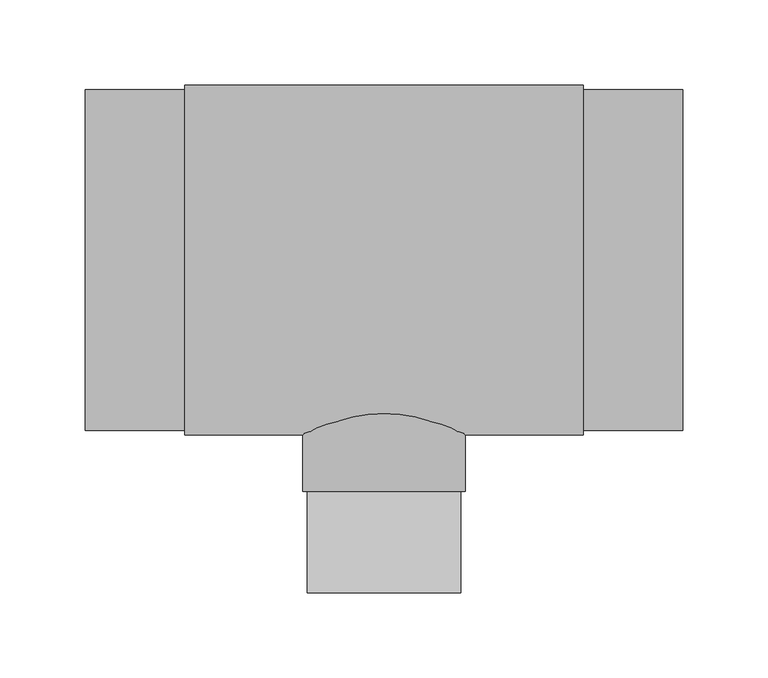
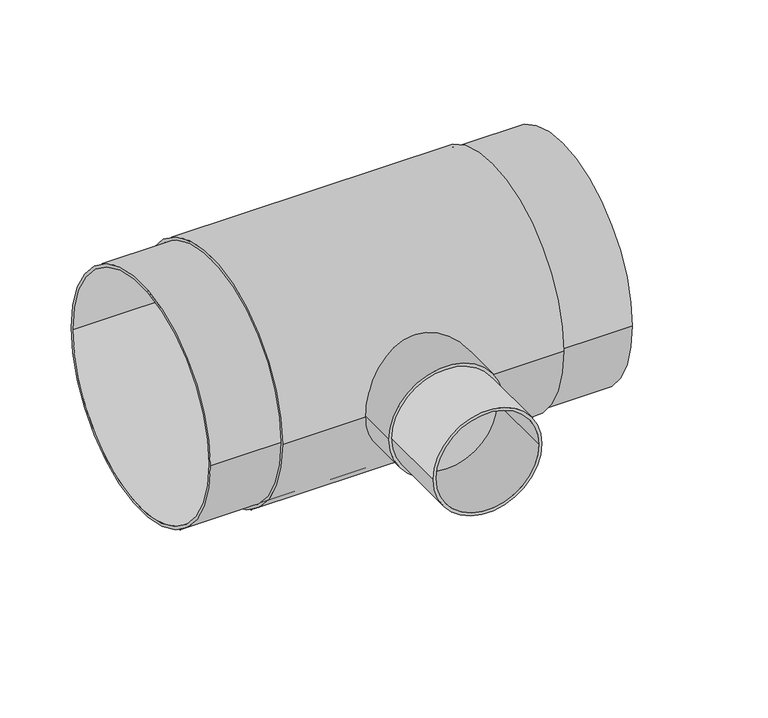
"""IFC4 building model written with IfcOpenShell, lengths in millimetres: pipe fitting geometry, EGB_VASEN_ PPR_Te a tope WXRB300_Te reducida a tope WXRB310 : Te a tope."""

import ifcopenshell
import ifcopenshell.guid

model = None  # the IFC model being written
_history = None  # IfcOwnerHistory: only IFC2X3 demands one
_inside = {}  # id of a spatial element -> (the spatial element, [elements in it])
_under = {}  # id of a project, library or spatial element -> (it, [spatial elements below it])
_declared = {}  # id of a project -> (the project, [libraries it declares])
_typed = {}  # id of a type object -> (the type object, [elements of that type])
_made_of = {}  # id of a material, layer set ... -> (it, [elements and type objects made of it])


def new_model(schema):
    """Start an empty IFC model of exactly this schema.

    Asked for "IFC4X3", IfcOpenShell would pick the latest addendum, in which some entities
    have other attributes; the version numbers below select the first issue.
    IFC2X3 requires an IfcOwnerHistory on every rooted entity: one is made here for all.
    """
    global model, _history
    if schema == "IFC4X3":
        model = ifcopenshell.file(schema_version=(4, 3, 0, 0))
    else:
        model = ifcopenshell.file(schema=schema)
    _inside.clear()
    _under.clear()
    _declared.clear()
    _typed.clear()
    _made_of.clear()
    _history = None
    if model.schema == "IFC2X3":
        org = make("IfcOrganization", Name="unknown")
        user = make(
            "IfcPersonAndOrganization",
            ThePerson=make("IfcPerson", FamilyName="unknown"),
            TheOrganization=org,
        )
        app = make(
            "IfcApplication",
            ApplicationDeveloper=org,
            Version="unknown",
            ApplicationFullName="unknown",
            ApplicationIdentifier="unknown",
        )
        _history = make(
            "IfcOwnerHistory",
            OwningUser=user,
            OwningApplication=app,
            ChangeAction="ADDED",
            CreationDate=0,
        )
    return model


def make(cls, **values):
    """One entity of the class cls with the attributes given. An attribute that is None is left unset."""
    return model.create_entity(
        cls, **{name: value for name, value in values.items() if value is not None}
    )


def rooted(cls, **values):
    """An entity with a GlobalId (a new one), such as an element, a storey or a relation."""
    return make(cls, GlobalId=ifcopenshell.guid.new(), OwnerHistory=_history, **values)


def si_unit(unit_type, name, prefix=None):
    """IfcSIUnit, for example si_unit("LENGTHUNIT", "METRE", prefix="MILLI")."""
    return make("IfcSIUnit", UnitType=unit_type, Prefix=prefix, Name=name)


def assignment(units):
    """IfcUnitAssignment: the units of a project."""
    return None if units is None else make("IfcUnitAssignment", Units=units)


def point(xyz):
    """IfcCartesianPoint."""
    return None if xyz is None else make("IfcCartesianPoint", Coordinates=xyz)


def direction(xyz):
    """IfcDirection."""
    return None if xyz is None else make("IfcDirection", DirectionRatios=xyz)


def frame(location, z_axis=None, x_axis=None):
    """IfcAxis2Placement3D, a coordinate frame: its origin and axes. An axis left out is left unset."""
    return make(
        "IfcAxis2Placement3D",
        Location=point(location),
        Axis=direction(z_axis),
        RefDirection=direction(x_axis),
    )


def frame_2d(location, x_axis=None):
    """IfcAxis2Placement2D, a coordinate frame in the plane: its origin and x axis."""
    return make(
        "IfcAxis2Placement2D", Location=point(location), RefDirection=direction(x_axis)
    )


def origin():
    """The frame at (0, 0, 0) with its axes left unset."""
    return frame((0.0, 0.0, 0.0))


def origin_2d():
    """The frame at (0, 0) in the plane with its x axis left unset."""
    return frame_2d((0.0, 0.0))


def place(relative_to, where):
    """IfcLocalPlacement: puts the frame where relative to a parent placement (None: the world)."""
    return make(
        "IfcLocalPlacement", PlacementRelTo=relative_to, RelativePlacement=where
    )


def context(
    kind, dimensions, precision=None, world=None, true_north=None, identifier=None
):
    """IfcGeometricRepresentationContext, for example the 3D "Model" context."""
    return make(
        "IfcGeometricRepresentationContext",
        ContextIdentifier=identifier,
        ContextType=kind,
        CoordinateSpaceDimension=dimensions,
        Precision=precision,
        WorldCoordinateSystem=world,
        TrueNorth=true_north,
    )


def project(units=None, contexts=None):
    """IfcProject with its units and contexts."""
    return rooted(
        "IfcProject",
        Name="project",
        RepresentationContexts=contexts,
        UnitsInContext=assignment(units),
    )


def spatial(cls, under=None, at=None, **own):
    """A site, building, storey or space (cls), placed at a placement, below another one or the project."""
    s = rooted(cls, ObjectPlacement=at, **own)
    if under is not None:
        _under.setdefault(under.id(), (under, []))[1].append(s)
    return s


def circle_curve(where, radius):
    """IfcCircle in the frame where."""
    return make("IfcCircle", Position=where, Radius=radius)


def trimmed(basis, trim1, trim2, sense, master):
    """IfcTrimmedCurve: the piece of a basis curve between two trims."""
    return make(
        "IfcTrimmedCurve",
        BasisCurve=basis,
        Trim1=trim1,
        Trim2=trim2,
        SenseAgreement=sense,
        MasterRepresentation=master,
    )


def segment(curve, same_sense, transition):
    """IfcCompositeCurveSegment."""
    return make(
        "IfcCompositeCurveSegment",
        Transition=transition,
        SameSense=same_sense,
        ParentCurve=curve,
    )


def composite_curve(segments, self_intersect=None):
    """IfcCompositeCurve: segments joined end to end."""
    return make("IfcCompositeCurve", Segments=segments, SelfIntersect=self_intersect)


def outline(outer, holes=None, kind="AREA"):
    """IfcArbitraryClosedProfileDef: a profile drawn as a closed curve; with holes, ...WithVoids."""
    if holes is None:
        return make("IfcArbitraryClosedProfileDef", ProfileType=kind, OuterCurve=outer)
    return make(
        "IfcArbitraryProfileDefWithVoids",
        ProfileType=kind,
        OuterCurve=outer,
        InnerCurves=holes,
    )


def extrude(swept, where, along, depth):
    """IfcExtrudedAreaSolid: the profile swept, set in the frame where, extruded along a direction by depth."""
    return make(
        "IfcExtrudedAreaSolid",
        SweptArea=swept,
        Position=where,
        ExtrudedDirection=direction(along),
        Depth=depth,
    )


def shape(context_of_items, identifier, shape_type, items):
    """IfcShapeRepresentation: the items that make up one representation, for example the "Body"."""
    return make(
        "IfcShapeRepresentation",
        ContextOfItems=context_of_items,
        RepresentationIdentifier=identifier,
        RepresentationType=shape_type,
        Items=items,
    )


def source(mapping_origin, context_of_items, identifier, shape_type, items):
    """IfcRepresentationMap: a shape defined once, which mapped items show again and again."""
    return make(
        "IfcRepresentationMap",
        MappingOrigin=mapping_origin,
        MappedRepresentation=shape(context_of_items, identifier, shape_type, items),
    )


def transform(
    local_origin,
    x_axis=None,
    y_axis=None,
    z_axis=None,
    scale=None,
    scale2=None,
    scale3=None,
    uniform=True,
):
    """IfcCartesianTransformationOperator3D, or its non-uniform kind. x_axis, y_axis, z_axis: its Axis1, 2, 3."""
    if uniform:
        return make(
            "IfcCartesianTransformationOperator3D",
            Axis1=direction(x_axis),
            Axis2=direction(y_axis),
            LocalOrigin=point(local_origin),
            Scale=scale,
            Axis3=direction(z_axis),
        )
    return make(
        "IfcCartesianTransformationOperator3DnonUniform",
        Axis1=direction(x_axis),
        Axis2=direction(y_axis),
        LocalOrigin=point(local_origin),
        Scale=scale,
        Axis3=direction(z_axis),
        Scale2=scale2,
        Scale3=scale3,
    )


def mapped(mapping_source, mapping_target):
    """IfcMappedItem: shows the shape of a source again, moved by a transform."""
    return make(
        "IfcMappedItem", MappingSource=mapping_source, MappingTarget=mapping_target
    )


def made_of(thing, what):
    """Note that an element or type object is made of a material, layer set ...; save() writes the relation."""
    if what is not None:
        _made_of.setdefault(what.id(), (what, []))[1].append(thing)
    return thing


def element(
    cls,
    number,
    at=None,
    inside=None,
    cuts=None,
    type_object=None,
    material=None,
    context=None,
    identifier="Body",
    shape_type=None,
    held_by="IfcProductDefinitionShape",
    body=None,
    shapes=None,
    **own,
):
    """One element of the class cls, such as IfcWall. Its Tag is "e" and its number.

    at: its placement. inside: the storey or other place that contains it. cuts: it is an
    opening in that element (IfcRelVoidsElement). A single representation is given by context,
    identifier, shape_type and body (its items); several are given by shapes. held_by: the class
    of the entity that holds the representations. save() writes the other relations.
    """
    e = rooted(cls, Tag="e%d" % number, ObjectPlacement=at, **own)
    if body is not None:
        shapes = [shape(context, identifier, shape_type, body)]
    if shapes is not None:
        e.Representation = make(held_by, Representations=shapes)
    if inside is not None:
        _inside.setdefault(inside.id(), (inside, []))[1].append(e)
    if cuts is not None:
        rooted(
            "IfcRelVoidsElement", RelatingBuildingElement=cuts, RelatedOpeningElement=e
        )
    if type_object is not None:
        _typed.setdefault(type_object.id(), (type_object, []))[1].append(e)
    return made_of(e, material)


def aggregate(whole, parts):
    """IfcRelAggregates: a whole, such as a stair, and the parts it consists of."""
    return rooted("IfcRelAggregates", RelatingObject=whole, RelatedObjects=parts)


def save(model, path):
    """Write the relations noted so far, then the file.

    IfcRelAggregates (storeys below a building ...), IfcRelContainedInSpatialStructure (elements
    in a storey), IfcRelDefinesByType, IfcRelAssociatesMaterial and IfcRelDeclares: one each for
    every whole, place, type object, material and project.
    """
    for whole, parts in _under.values():
        aggregate(whole, parts)
    for where, things in _inside.values():
        rooted(
            "IfcRelContainedInSpatialStructure",
            RelatedElements=things,
            RelatingStructure=where,
        )
    for kind, things in _typed.values():
        rooted("IfcRelDefinesByType", RelatedObjects=things, RelatingType=kind)
    for what, things in _made_of.values():
        rooted("IfcRelAssociatesMaterial", RelatedObjects=things, RelatingMaterial=what)
    for by, libraries in _declared.values():
        rooted("IfcRelDeclares", RelatingContext=by, RelatedDefinitions=libraries)
    model.write(path)


def pipe_fitting_fcf265f6(model_context):
    return source(origin(), model_context, "Body", "SweptSolid", [
        extrude(outline(composite_curve([segment(trimmed(circle_curve(origin_2d(), 45.0), [point((0.0, 45.0))], [point((0.0, -45.0))], False, "CARTESIAN"), True, "CONTINUOUS"), segment(trimmed(circle_curve(origin_2d(), 45.0), [point((0.0, -45.0))], [point((0.0, 45.0))], False, "CARTESIAN"), True, "CONTINUOUS")], self_intersect=False), holes=[composite_curve([segment(trimmed(circle_curve(origin_2d(), 42.5), [point((0.0, 42.5))], [point((0.0, -42.5))], True, "CARTESIAN"), True, "CONTINUOUS"), segment(trimmed(circle_curve(origin_2d(), 42.5), [point((0.0, -42.5))], [point((0.0, 42.5))], True, "CARTESIAN"), True, "CONTINUOUS")], self_intersect=False)]), frame((0.0, -195.0, 0.0), z_axis=(0.0, 1.0, 0.0), x_axis=(0.0, 0.0, 1.0)), (0.0, 0.0, 1.0), 59.5),
        extrude(outline(composite_curve([segment(trimmed(circle_curve(origin_2d(), 47.5), [point((0.0, 47.5))], [point((0.0, -47.5))], False, "CARTESIAN"), True, "CONTINUOUS"), segment(trimmed(circle_curve(origin_2d(), 47.5), [point((0.0, -47.5))], [point((0.0, 47.5))], False, "CARTESIAN"), True, "CONTINUOUS")], self_intersect=False)), frame((0.0, -135.5, 0.0), z_axis=(0.0, 1.0, 0.0), x_axis=(0.0, 0.0, 1.0)), (0.0, 0.0, 1.0), 135.5),
        extrude(outline(composite_curve([segment(trimmed(circle_curve(origin_2d(), 102.5), [point((-102.5, 0.0))], [point((102.5, 0.0))], False, "CARTESIAN"), True, "CONTINUOUS"), segment(trimmed(circle_curve(origin_2d(), 102.5), [point((102.5, 0.0))], [point((-102.5, 0.0))], False, "CARTESIAN"), True, "CONTINUOUS")], self_intersect=False), holes=[composite_curve([segment(trimmed(circle_curve(origin_2d(), 100.0), [point((-100.0, 0.0))], [point((100.0, 0.0))], True, "CARTESIAN"), True, "CONTINUOUS"), segment(trimmed(circle_curve(origin_2d(), 100.0), [point((100.0, 0.0))], [point((-100.0, 0.0))], True, "CARTESIAN"), True, "CONTINUOUS")], self_intersect=False)]), frame((-116.6666667, 0.0, 0.0), z_axis=(1.0, 0.0, 0.0), x_axis=(0.0, 1.0, 0.0)), (0.0, 0.0, 1.0), 233.3333333),
        extrude(outline(composite_curve([segment(trimmed(circle_curve(origin_2d(), 100.0), [point((-100.0, 0.0))], [point((100.0, 0.0))], False, "CARTESIAN"), True, "CONTINUOUS"), segment(trimmed(circle_curve(origin_2d(), 100.0), [point((100.0, 0.0))], [point((-100.0, 0.0))], False, "CARTESIAN"), True, "CONTINUOUS")], self_intersect=False), holes=[composite_curve([segment(trimmed(circle_curve(origin_2d(), 97.5), [point((-97.5, 0.0))], [point((97.5, 0.0))], True, "CARTESIAN"), True, "CONTINUOUS"), segment(trimmed(circle_curve(origin_2d(), 97.5), [point((97.5, 0.0))], [point((-97.5, 0.0))], True, "CARTESIAN"), True, "CONTINUOUS")], self_intersect=False)]), frame((-175.0, 0.0, 0.0), z_axis=(1.0, 0.0, 0.0), x_axis=(0.0, 1.0, 0.0)), (0.0, 0.0, 1.0), 350.0),
    ])


if __name__ == "__main__":
    model = new_model("IFC4")
    model_context = context("Model", 3, world=origin())
    ifc_project = project(units=[si_unit("LENGTHUNIT", "METRE", prefix="MILLI")], contexts=[model_context])
    site = spatial("IfcSite", under=ifc_project)
    building = spatial("IfcBuilding", under=site)
    placement = place(None, origin())
    pipe_fitting_shape = pipe_fitting_fcf265f6(model_context)
    element("IfcPipeFitting", 1, ObjectType="EGB_VASEN_ PPR_Te a tope WXRB300_Te reducida a tope WXRB310 : Te a tope", at=placement, inside=building, context=model_context, shape_type="MappedRepresentation", body=[
        mapped(pipe_fitting_shape, transform((0.0, 0.0, 0.0), x_axis=(1.0, 0.0, 0.0), y_axis=(0.0, 1.0, 0.0), z_axis=(0.0, 0.0, 1.0))),
    ])
    save(model, "model.ifc")
